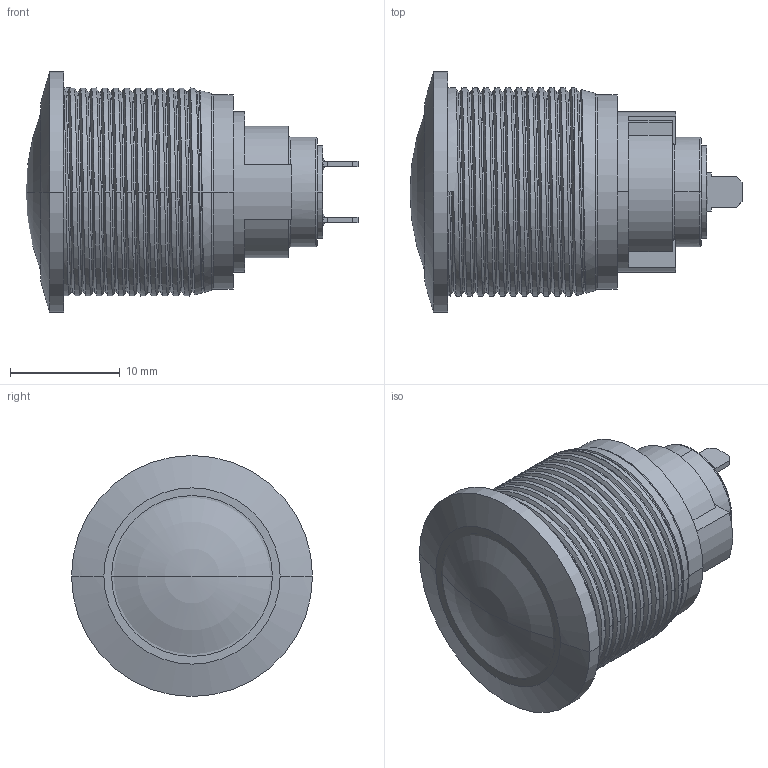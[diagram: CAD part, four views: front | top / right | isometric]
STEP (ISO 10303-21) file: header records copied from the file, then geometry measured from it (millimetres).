
FILE_DESCRIPTION((''),'2;1');
FILE_NAME('AV191001A200K','2015-07-15T',('mdamaggio'),(''),'CREO PARAMETRIC BY PTC INC, 2014440','CREO PARAMETRIC BY PTC INC, 2014440','');
FILE_SCHEMA(('CONFIG_CONTROL_DESIGN'));
Length unit declared in the file: millimetre
Products named in the file (1): AV191001A200K
Bounding box: 30.31 x 22 x 22 mm (x, y, z)
Surface area: 3303.6 mm2 (no closed solid volume)
Topology: 0 solids, 9 shells, 119 faces, 363 edges, 243 vertices
Faces by surface type: plane 47, cylinder 41, bspline 16, torus 8, sphere 4, cone 3
Entity records: 12660 total; most frequent: CARTESIAN_POINT 9597, ORIENTED_EDGE 649, DIRECTION 565, EDGE_CURVE 353, VERTEX_POINT 243, AXIS2_PLACEMENT_3D 194, VECTOR 177, LINE 177
